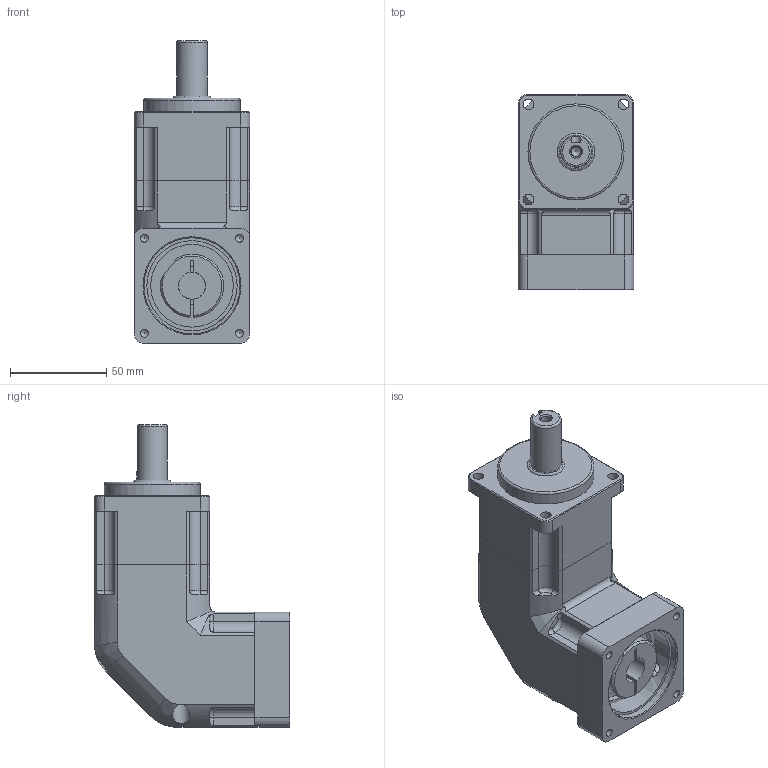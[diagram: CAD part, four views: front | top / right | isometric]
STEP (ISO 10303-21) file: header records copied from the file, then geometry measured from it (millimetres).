
FILE_DESCRIPTION((''),'2;1');
FILE_NAME('C:\Documents and Settings\nagyu\바탕 화면\유성감속기 3D\SPL060\SPL060S003~20KA.stp','2009-10-27T09:42:52',('nagyu'),(''),'Autodesk Inventor 2010','Autodesk Inventor 2010','');
FILE_SCHEMA(('AUTOMOTIVE_DESIGN { 1 0 10303 214 1 1 1 1 }'));
Length unit declared in the file: millimetre
Products named in the file (4): SPL060 1단; SPI060; SPL060 GEARCASE; 60각 INPUT ADAPTER FLANGE
Assembly tree (3 placements, depth 2):
  SPL060 1단
    SPI060
    SPL060 GEARCASE
    60각 INPUT ADAPTER FLANGE
Bounding box: 60 x 101.5 x 157.6 mm (x, y, z)
Volume: 439898.3 mm3; surface area: 74835.1 mm2
Topology: 4 solids, 4 shells, 243 faces, 645 edges, 422 vertices
Faces by surface type: plane 98, cylinder 90, bspline 40, cone 12, torus 3
Full cylindrical faces by diameter (mm): 4.3 x4, 7.5 x4, 10 x1, 12 x1, 14 x1, 16 x1, 20 x1, 50 x2, 51 x1, 52 x1, 54 x1
Entity records: 8541 total; most frequent: CARTESIAN_POINT 2726, ORIENTED_EDGE 1138, DIRECTION 1129, EDGE_CURVE 569, AXIS2_PLACEMENT_3D 430, VERTEX_POINT 393, EDGE_LOOP 326, VECTOR 269
